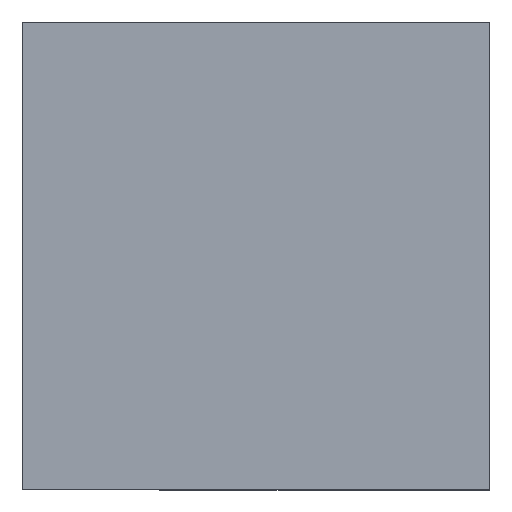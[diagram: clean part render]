
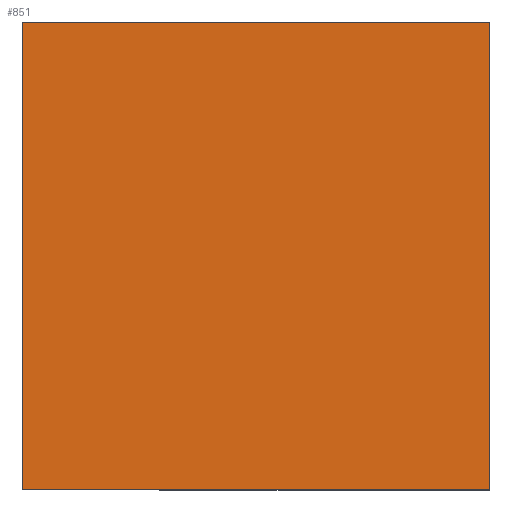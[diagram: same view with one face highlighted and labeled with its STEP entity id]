
A CAD part, top view. The second image highlights one B-rep face of the part: STEP entity #851.
In plain terms, the highlighted planar face has unit normal (0, 0, 1).
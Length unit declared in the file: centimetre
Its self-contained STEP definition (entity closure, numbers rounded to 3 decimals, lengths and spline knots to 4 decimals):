
#1 = VERTEX_POINT ( 'NONE', #275 ) ;
#7 = VECTOR ( 'NONE', #624, 100. ) ;
#61 = ORIENTED_EDGE ( 'NONE', *, *, #309, .T. ) ;
#122 = DIRECTION ( 'NONE',  ( 1., 0., 0. ) ) ;
#128 = VECTOR ( 'NONE', #349, 100. ) ;
#154 = LINE ( 'NONE', #839, #128 ) ;
#155 = PLANE ( 'NONE',  #461 ) ;
#256 = ORIENTED_EDGE ( 'NONE', *, *, #1240, .T. ) ;
#258 = CARTESIAN_POINT ( 'NONE',  ( 1000., 1000., 1000. ) ) ;
#265 = CARTESIAN_POINT ( 'NONE',  ( 0., 1000., 1000. ) ) ;
#275 = CARTESIAN_POINT ( 'NONE',  ( 1000., 0., 1000. ) ) ;
#301 = VECTOR ( 'NONE', #1065, 100. ) ;
#309 = EDGE_CURVE ( 'NONE', #369, #1, #413, .T. ) ;
#336 = CARTESIAN_POINT ( 'NONE',  ( 0., 0., 1000. ) ) ;
#349 = DIRECTION ( 'NONE',  ( 0., -1., 0. ) ) ;
#369 = VERTEX_POINT ( 'NONE', #336 ) ;
#379 = EDGE_CURVE ( 'NONE', #966, #369, #154, .T. ) ;
#399 = CARTESIAN_POINT ( 'NONE',  ( 0., 0., 1000. ) ) ;
#413 = LINE ( 'NONE', #399, #1133 ) ;
#426 = EDGE_LOOP ( 'NONE', ( #763, #61, #1080, #256 ) ) ;
#445 = FACE_OUTER_BOUND ( 'NONE', #426, .T. ) ;
#461 = AXIS2_PLACEMENT_3D ( 'NONE', #1201, #617, #1018 ) ;
#617 = DIRECTION ( 'NONE',  ( 0., 0., 1. ) ) ;
#624 = DIRECTION ( 'NONE',  ( -1., 0., 0. ) ) ;
#689 = EDGE_CURVE ( 'NONE', #1, #925, #876, .T. ) ;
#733 = LINE ( 'NONE', #1123, #7 ) ;
#763 = ORIENTED_EDGE ( 'NONE', *, *, #379, .T. ) ;
#839 = CARTESIAN_POINT ( 'NONE',  ( 0., 1000., 1000. ) ) ;
#851 = ADVANCED_FACE ( 'NONE', ( #445 ), #155, .T. ) ;
#876 = LINE ( 'NONE', #898, #301 ) ;
#898 = CARTESIAN_POINT ( 'NONE',  ( 1000., 1000., 1000. ) ) ;
#925 = VERTEX_POINT ( 'NONE', #258 ) ;
#966 = VERTEX_POINT ( 'NONE', #265 ) ;
#1018 = DIRECTION ( 'NONE',  ( 1., 0., 0. ) ) ;
#1065 = DIRECTION ( 'NONE',  ( 0., 1., 0. ) ) ;
#1080 = ORIENTED_EDGE ( 'NONE', *, *, #689, .T. ) ;
#1123 = CARTESIAN_POINT ( 'NONE',  ( 0., 1000., 1000. ) ) ;
#1133 = VECTOR ( 'NONE', #122, 100. ) ;
#1201 = CARTESIAN_POINT ( 'NONE',  ( 0., 0., 1000. ) ) ;
#1240 = EDGE_CURVE ( 'NONE', #925, #966, #733, .T. ) ;
